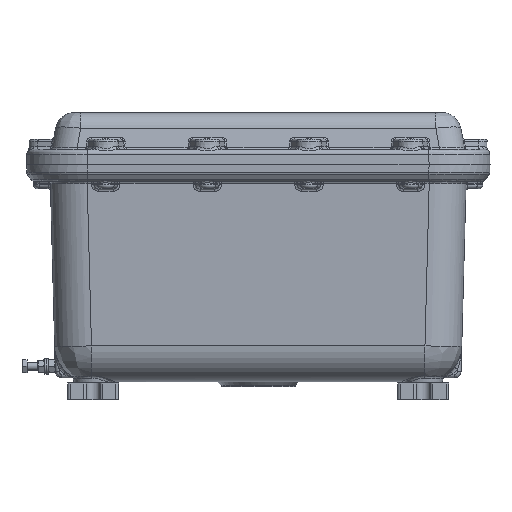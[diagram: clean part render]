
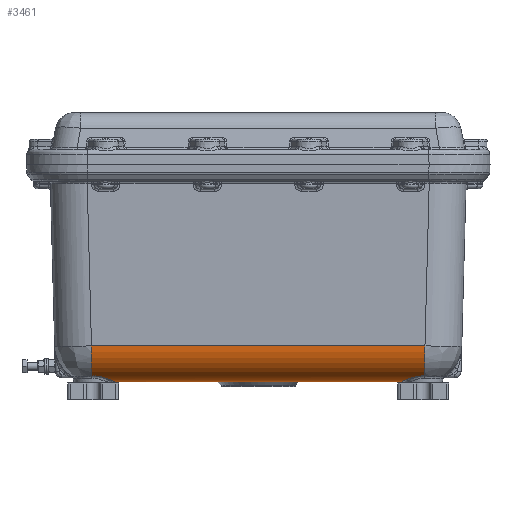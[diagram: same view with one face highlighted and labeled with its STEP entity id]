
A CAD part, front view. The second image highlights one B-rep face of the part: STEP entity #3461.
In plain terms, the highlighted cylindrical face has radius 29 mm (diameter 58 mm), a partial arc.
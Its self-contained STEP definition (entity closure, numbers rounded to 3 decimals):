
#3461=ADVANCED_FACE('',(#26417),#26419,.T.);
#26417=FACE_BOUND('',#26418,.T.);
#26418=EDGE_LOOP('',(#66872,#66873,#66874,#66875,#66876,#66877,#66878,#66879));
#26419=CYLINDRICAL_SURFACE('',#26420,29.);
#26420=AXIS2_PLACEMENT_3D('',#26421,#26422,#26423);
#26421=CARTESIAN_POINT('',(-246.563,-141.,-91.303));
#26422=DIRECTION('',(1.,0.,0.));
#26423=DIRECTION('',(0.,-1.,0.));
#66872=ORIENTED_EDGE('',*,*,#78668,.F.);
#66873=ORIENTED_EDGE('',*,*,#78660,.F.);
#66874=ORIENTED_EDGE('',*,*,#78669,.T.);
#66875=ORIENTED_EDGE('',*,*,#78569,.T.);
#66876=ORIENTED_EDGE('',*,*,#78670,.F.);
#66877=ORIENTED_EDGE('',*,*,#78671,.F.);
#66878=ORIENTED_EDGE('',*,*,#78555,.F.);
#66879=ORIENTED_EDGE('',*,*,#78672,.F.);
#78555=EDGE_CURVE('',#84525,#84527,#84528,.T.);
#78569=EDGE_CURVE('',#84551,#84549,#84552,.T.);
#78660=EDGE_CURVE('',#84710,#84708,#84712,.F.);
#78668=EDGE_CURVE('',#84708,#84724,#84725,.T.);
#78669=EDGE_CURVE('',#84710,#84551,#84726,.T.);
#78670=EDGE_CURVE('',#84727,#84549,#84728,.T.);
#78671=EDGE_CURVE('',#84527,#84727,#84729,.T.);
#78672=EDGE_CURVE('',#84724,#84525,#84730,.T.);
#84525=VERTEX_POINT('',#95008);
#84527=VERTEX_POINT('',#95039);
#84528=LINE('',#95040,#95041);
#84549=VERTEX_POINT('',#95176);
#84551=VERTEX_POINT('',#95200);
#84552=CIRCLE('',#95201,29.);
#84708=VERTEX_POINT('',#96357);
#84710=VERTEX_POINT('',#96379);
#84712=CIRCLE('',#96384,29.);
#84724=VERTEX_POINT('',#96499);
#84725=B_SPLINE_CURVE_WITH_KNOTS('',3,
(#96500,#96501,#96502,#96503,#96504,#96505,#96506,#96507,#96508,#96509,#96510,#96511,
#96512,#96513,#96514,#96515,#96516,#96517,#96518,#96519,#96520),
.UNSPECIFIED.,.F.,.F.,
(4,1,1,1,1,1,1,1,1,1,1,1,1,1,1,1,1,1,4),
(0.,0.112,0.207,0.282,0.339,0.388,
0.428,0.457,0.488,0.52,0.556,
0.596,0.645,0.701,0.759,0.815,
0.874,0.935,1.),
.UNSPECIFIED.);
#84726=LINE('',#96521,#96522);
#84727=VERTEX_POINT('',#96524);
#84728=B_SPLINE_CURVE_WITH_KNOTS('',3,
(#96525,#96526,#96527,#96528,#96529,#96530,#96531,#96532,#96533,#96534,#96535,#96536,
#96537,#96538,#96539,#96540,#96541,#96542,#96543,#96544,#96545,#96546),
.UNSPECIFIED.,.F.,.F.,
(4,1,1,1,1,1,1,1,1,1,1,1,1,1,1,1,1,1,1,4),
(0.,0.09,0.166,0.226,0.27,0.319,
0.373,0.433,0.492,0.547,0.596,
0.639,0.684,0.731,0.78,0.831,
0.879,0.928,0.967,1.),
.UNSPECIFIED.);
#84729=B_SPLINE_CURVE_WITH_KNOTS('',3,
(#96547,#96548,#96549,#96550,#96551,#96552,#96553,#96554,#96555,#96556,#96557,#96558,
#96559,#96560,#96561,#96562,#96563),
.UNSPECIFIED.,.F.,.F.,
(4,1,1,1,1,1,1,1,1,1,1,1,1,1,4),
(0.,0.081,0.153,0.226,0.302,0.379,
0.452,0.515,0.575,0.638,0.705,
0.78,0.865,0.939,1.),
.UNSPECIFIED.);
#84730=B_SPLINE_CURVE_WITH_KNOTS('',3,
(#96564,#96565,#96566,#96567,#96568,#96569,#96570,#96571,#96572,#96573,#96574,#96575,
#96576,#96577,#96578,#96579),
.UNSPECIFIED.,.F.,.F.,
(4,1,1,1,1,1,1,1,1,1,1,1,1,4),
(0.,0.107,0.196,0.271,0.345,0.425,
0.506,0.59,0.673,0.749,0.82,
0.882,0.942,1.),
.UNSPECIFIED.);
#95008=CARTESIAN_POINT('',(-113.02,-170.,-91.304));
#95039=CARTESIAN_POINT('',(113.02,-170.,-91.303));
#95040=CARTESIAN_POINT('',(-113.02,-170.,-91.304));
#95041=VECTOR('',#95042,1.);
#95042=DIRECTION('',(1.,0.,0.));
#95176=CARTESIAN_POINT('',(131.303,-165.435,-106.921));
#95200=CARTESIAN_POINT('',(131.303,-141.759,-120.293));
#95201=AXIS2_PLACEMENT_3D('',#95202,#95203,#95204);
#95202=CARTESIAN_POINT('',(131.303,-141.,-91.303));
#95203=DIRECTION('',(-1.,-0.,-0.));
#95204=DIRECTION('',(0.,-0.026,-1.));
#96357=CARTESIAN_POINT('',(-131.303,-165.435,-106.921));
#96379=CARTESIAN_POINT('',(-131.303,-141.759,-120.293));
#96384=AXIS2_PLACEMENT_3D('',#96385,#96386,#96387);
#96385=CARTESIAN_POINT('',(-131.303,-141.,-91.303));
#96386=DIRECTION('',(1.,0.,0.));
#96387=DIRECTION('',(0.,-0.843,-0.539));
#96499=CARTESIAN_POINT('',(-116.676,-168.285,-101.127));
#96500=CARTESIAN_POINT('',(-131.303,-165.435,-106.921));
#96501=CARTESIAN_POINT('',(-130.673,-165.408,-106.961));
#96502=CARTESIAN_POINT('',(-129.511,-165.391,-106.991));
#96503=CARTESIAN_POINT('',(-127.932,-165.469,-106.867));
#96504=CARTESIAN_POINT('',(-126.681,-165.591,-106.673));
#96505=CARTESIAN_POINT('',(-125.698,-165.725,-106.458));
#96506=CARTESIAN_POINT('',(-124.924,-165.852,-106.25));
#96507=CARTESIAN_POINT('',(-124.308,-165.968,-106.057));
#96508=CARTESIAN_POINT('',(-123.793,-166.072,-105.878));
#96509=CARTESIAN_POINT('',(-123.324,-166.175,-105.701));
#96510=CARTESIAN_POINT('',(-122.83,-166.289,-105.498));
#96511=CARTESIAN_POINT('',(-122.298,-166.422,-105.26));
#96512=CARTESIAN_POINT('',(-121.697,-166.581,-104.966));
#96513=CARTESIAN_POINT('',(-121.013,-166.774,-104.598));
#96514=CARTESIAN_POINT('',(-120.269,-167.,-104.152));
#96515=CARTESIAN_POINT('',(-119.519,-167.243,-103.648));
#96516=CARTESIAN_POINT('',(-118.792,-167.492,-103.104));
#96517=CARTESIAN_POINT('',(-118.078,-167.747,-102.515));
#96518=CARTESIAN_POINT('',(-117.368,-168.015,-101.855));
#96519=CARTESIAN_POINT('',(-116.908,-168.195,-101.377));
#96520=CARTESIAN_POINT('',(-116.676,-168.285,-101.127));
#96521=CARTESIAN_POINT('',(-131.303,-141.759,-120.293));
#96522=VECTOR('',#96523,1.);
#96523=DIRECTION('',(1.,0.,0.));
#96524=CARTESIAN_POINT('',(116.676,-168.285,-101.127));
#96525=CARTESIAN_POINT('',(116.676,-168.285,-101.127));
#96526=CARTESIAN_POINT('',(116.997,-168.16,-101.476));
#96527=CARTESIAN_POINT('',(117.606,-167.923,-102.095));
#96528=CARTESIAN_POINT('',(118.501,-167.594,-102.876));
#96529=CARTESIAN_POINT('',(119.253,-167.333,-103.455));
#96530=CARTESIAN_POINT('',(119.918,-167.112,-103.92));
#96531=CARTESIAN_POINT('',(120.575,-166.905,-104.34));
#96532=CARTESIAN_POINT('',(121.326,-166.683,-104.773));
#96533=CARTESIAN_POINT('',(122.149,-166.458,-105.195));
#96534=CARTESIAN_POINT('',(123.003,-166.246,-105.576));
#96535=CARTESIAN_POINT('',(123.829,-166.062,-105.896));
#96536=CARTESIAN_POINT('',(124.59,-165.912,-106.15));
#96537=CARTESIAN_POINT('',(125.315,-165.786,-106.359));
#96538=CARTESIAN_POINT('',(126.039,-165.677,-106.536));
#96539=CARTESIAN_POINT('',(126.807,-165.58,-106.69));
#96540=CARTESIAN_POINT('',(127.62,-165.501,-106.817));
#96541=CARTESIAN_POINT('',(128.448,-165.444,-106.907));
#96542=CARTESIAN_POINT('',(129.274,-165.411,-106.959));
#96543=CARTESIAN_POINT('',(130.038,-165.402,-106.972));
#96544=CARTESIAN_POINT('',(130.713,-165.412,-106.956));
#96545=CARTESIAN_POINT('',(131.118,-165.427,-106.934));
#96546=CARTESIAN_POINT('',(131.303,-165.435,-106.921));
#96547=CARTESIAN_POINT('',(113.02,-170.,-91.303));
#96548=CARTESIAN_POINT('',(113.044,-170.,-91.587));
#96549=CARTESIAN_POINT('',(113.097,-169.992,-92.124));
#96550=CARTESIAN_POINT('',(113.197,-169.959,-92.913));
#96551=CARTESIAN_POINT('',(113.317,-169.906,-93.682));
#96552=CARTESIAN_POINT('',(113.466,-169.83,-94.469));
#96553=CARTESIAN_POINT('',(113.644,-169.734,-95.249));
#96554=CARTESIAN_POINT('',(113.845,-169.623,-95.979));
#96555=CARTESIAN_POINT('',(114.058,-169.507,-96.641));
#96556=CARTESIAN_POINT('',(114.288,-169.384,-97.263));
#96557=CARTESIAN_POINT('',(114.552,-169.245,-97.888));
#96558=CARTESIAN_POINT('',(114.871,-169.083,-98.547));
#96559=CARTESIAN_POINT('',(115.269,-168.891,-99.258));
#96560=CARTESIAN_POINT('',(115.73,-168.68,-99.963));
#96561=CARTESIAN_POINT('',(116.21,-168.473,-100.596));
#96562=CARTESIAN_POINT('',(116.528,-168.344,-100.964));
#96563=CARTESIAN_POINT('',(116.676,-168.285,-101.127));
#96564=CARTESIAN_POINT('',(-116.676,-168.285,-101.127));
#96565=CARTESIAN_POINT('',(-116.415,-168.389,-100.839));
#96566=CARTESIAN_POINT('',(-115.965,-168.576,-100.293));
#96567=CARTESIAN_POINT('',(-115.413,-168.824,-99.49));
#96568=CARTESIAN_POINT('',(-114.981,-169.029,-98.755));
#96569=CARTESIAN_POINT('',(-114.612,-169.214,-98.024));
#96570=CARTESIAN_POINT('',(-114.28,-169.387,-97.252));
#96571=CARTESIAN_POINT('',(-113.984,-169.547,-96.432));
#96572=CARTESIAN_POINT('',(-113.731,-169.686,-95.585));
#96573=CARTESIAN_POINT('',(-113.526,-169.798,-94.751));
#96574=CARTESIAN_POINT('',(-113.365,-169.882,-93.953));
#96575=CARTESIAN_POINT('',(-113.243,-169.939,-93.224));
#96576=CARTESIAN_POINT('',(-113.149,-169.976,-92.547));
#96577=CARTESIAN_POINT('',(-113.076,-169.996,-91.917));
#96578=CARTESIAN_POINT('',(-113.037,-170.,-91.505));
#96579=CARTESIAN_POINT('',(-113.02,-170.,-91.304));
